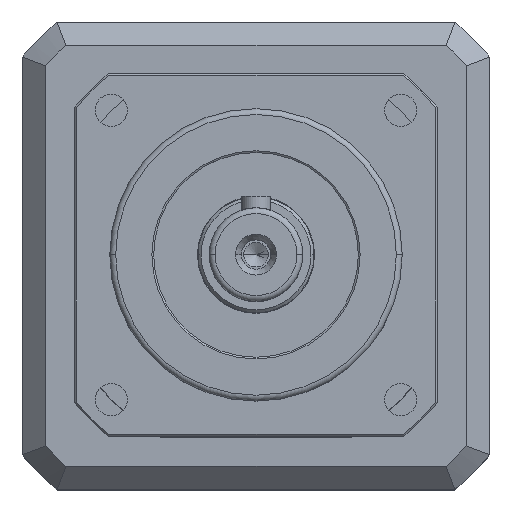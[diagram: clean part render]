
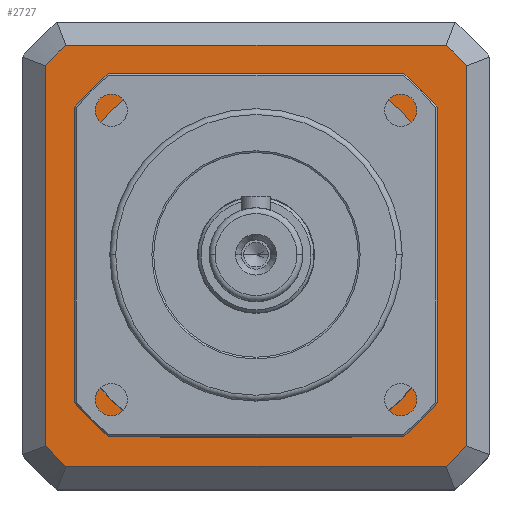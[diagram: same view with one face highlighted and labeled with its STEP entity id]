
A CAD part, top view. The second image highlights one B-rep face of the part: STEP entity #2727.
In plain terms, the highlighted planar face has unit normal (0, 0, 1).
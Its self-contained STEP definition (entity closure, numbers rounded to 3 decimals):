
#88 = LINE ( 'NONE', #4486, #12140 ) ;
#89 = LINE ( 'NONE', #4491, #12143 ) ;
#213 = LINE ( 'NONE', #17878, #3453 ) ;
#1195 = CARTESIAN_POINT ( 'NONE',  ( -36., 0., -91.8 ) ) ;
#1196 = DIRECTION ( 'NONE',  ( 0., -1., 0. ) ) ;
#1197 = CARTESIAN_POINT ( 'NONE',  ( 0., 0., -91.8 ) ) ;
#1198 = DIRECTION ( 'NONE',  ( 0., 0., 1. ) ) ;
#1199 = DIRECTION ( 'NONE',  ( 1., 0., 0. ) ) ;
#1200 = CARTESIAN_POINT ( 'NONE',  ( 0., 0., -91.8 ) ) ;
#1201 = DIRECTION ( 'NONE',  ( 0., 0., 1. ) ) ;
#1202 = DIRECTION ( 'NONE',  ( 1., 0., 0. ) ) ;
#1203 = CARTESIAN_POINT ( 'NONE',  ( 0., -36., -91.8 ) ) ;
#1204 = DIRECTION ( 'NONE',  ( 1., 0., 0. ) ) ;
#1205 = CARTESIAN_POINT ( 'NONE',  ( 0., 0., -91.8 ) ) ;
#1206 = DIRECTION ( 'NONE',  ( 0., 0., 1. ) ) ;
#1207 = DIRECTION ( 'NONE',  ( 1., 0., 0. ) ) ;
#1256 = PLANE ( 'NONE',  #12610 ) ;
#1638 = ORIENTED_EDGE ( 'NONE', *, *, #2708, .T. ) ;
#1639 = ORIENTED_EDGE ( 'NONE', *, *, #2709, .T. ) ;
#1640 = ORIENTED_EDGE ( 'NONE', *, *, #2707, .T. ) ;
#1641 = ORIENTED_EDGE ( 'NONE', *, *, #2710, .T. ) ;
#1642 = ORIENTED_EDGE ( 'NONE', *, *, #2711, .T. ) ;
#1643 = ORIENTED_EDGE ( 'NONE', *, *, #8556, .T. ) ;
#1644 = ORIENTED_EDGE ( 'NONE', *, *, #16356, .T. ) ;
#2386 = LINE ( 'NONE', #1195, #12584 ) ;
#2387 = LINE ( 'NONE', #1203, #12589 ) ;
#2421 = FACE_OUTER_BOUND ( 'NONE', #14951, .T. ) ;
#2422 = FACE_BOUND ( 'NONE', #14952, .T. ) ;
#2707 = EDGE_CURVE ( 'NONE', #18431, #18430, #2386, .T. ) ;
#2708 = EDGE_CURVE ( 'NONE', #18432, #18431, #12583, .T. ) ;
#2709 = EDGE_CURVE ( 'NONE', #18430, #18429, #12580, .T. ) ;
#2710 = EDGE_CURVE ( 'NONE', #18429, #18428, #2387, .T. ) ;
#2711 = EDGE_CURVE ( 'NONE', #18428, #18427, #12577, .T. ) ;
#2727 = ADVANCED_FACE ( 'NONE', ( #2421, #2422 ), #1256, .T. ) ;
#3453 = VECTOR ( 'NONE', #17879, 1000. ) ;
#4483 = CARTESIAN_POINT ( 'NONE',  ( 0., 0., -91.8 ) ) ;
#4484 = DIRECTION ( 'NONE',  ( 0., 0., 1. ) ) ;
#4485 = DIRECTION ( 'NONE',  ( 1., 0., 0. ) ) ;
#4486 = CARTESIAN_POINT ( 'NONE',  ( 31., 16.248, -91.8 ) ) ;
#4487 = DIRECTION ( 'NONE',  ( 0., 1., 0. ) ) ;
#4488 = CARTESIAN_POINT ( 'NONE',  ( 0., 0., -91.8 ) ) ;
#4489 = DIRECTION ( 'NONE',  ( 0., 0., 1. ) ) ;
#4490 = DIRECTION ( 'NONE',  ( 1., 0., 0. ) ) ;
#4491 = CARTESIAN_POINT ( 'NONE',  ( -16.248, -31., -91.8 ) ) ;
#4492 = DIRECTION ( 'NONE',  ( 1., 0., 0. ) ) ;
#4493 = CARTESIAN_POINT ( 'NONE',  ( 0., 0., -91.8 ) ) ;
#4494 = DIRECTION ( 'NONE',  ( 0., 0., 1. ) ) ;
#4495 = DIRECTION ( 'NONE',  ( 1., 0., 0. ) ) ;
#7411 = ORIENTED_EDGE ( 'NONE', *, *, #16358, .T. ) ;
#7412 = ORIENTED_EDGE ( 'NONE', *, *, #16359, .F. ) ;
#7413 = ORIENTED_EDGE ( 'NONE', *, *, #16360, .F. ) ;
#7414 = ORIENTED_EDGE ( 'NONE', *, *, #16357, .F. ) ;
#7415 = ORIENTED_EDGE ( 'NONE', *, *, #8115, .F. ) ;
#7416 = ORIENTED_EDGE ( 'NONE', *, *, #8116, .F. ) ;
#7417 = ORIENTED_EDGE ( 'NONE', *, *, #8117, .F. ) ;
#7418 = ORIENTED_EDGE ( 'NONE', *, *, #8118, .F. ) ;
#7419 = ORIENTED_EDGE ( 'NONE', *, *, #8119, .F. ) ;
#7874 = AXIS2_PLACEMENT_3D ( 'NONE', #9491, #9492, #9493 ) ;
#7875 = VECTOR ( 'NONE', #9495, 1000. ) ;
#7876 = VECTOR ( 'NONE', #9497, 1000. ) ;
#7878 = VECTOR ( 'NONE', #9499, 1000. ) ;
#8115 = EDGE_CURVE ( 'NONE', #18420, #18421, #12138, .T. ) ;
#8116 = EDGE_CURVE ( 'NONE', #18419, #18420, #88, .T. ) ;
#8117 = EDGE_CURVE ( 'NONE', #18418, #18419, #12139, .T. ) ;
#8118 = EDGE_CURVE ( 'NONE', #18417, #18418, #89, .T. ) ;
#8119 = EDGE_CURVE ( 'NONE', #18423, #18417, #12142, .T. ) ;
#8556 = EDGE_CURVE ( 'NONE', #18427, #18426, #213, .T. ) ;
#9027 = CARTESIAN_POINT ( 'NONE',  ( 0., 0., -91.8 ) ) ;
#9028 = DIRECTION ( 'NONE',  ( 0., 0., 1. ) ) ;
#9029 = DIRECTION ( 'NONE',  ( 1., 0., 0. ) ) ;
#9274 = LINE ( 'NONE', #9494, #7875 ) ;
#9275 = LINE ( 'NONE', #9496, #7876 ) ;
#9276 = LINE ( 'NONE', #9498, #7878 ) ;
#9488 = CARTESIAN_POINT ( 'NONE',  ( 0., 0., -91.8 ) ) ;
#9489 = DIRECTION ( 'NONE',  ( 0., 0., 1. ) ) ;
#9490 = DIRECTION ( 'NONE',  ( 1., 0., 0. ) ) ;
#9491 = CARTESIAN_POINT ( 'NONE',  ( 0., 0., -91.8 ) ) ;
#9492 = DIRECTION ( 'NONE',  ( 0., 0., 1. ) ) ;
#9493 = DIRECTION ( 'NONE',  ( 1., 0., 0. ) ) ;
#9494 = CARTESIAN_POINT ( 'NONE',  ( 0., 36., -91.8 ) ) ;
#9495 = DIRECTION ( 'NONE',  ( -1., 0., 0. ) ) ;
#9496 = CARTESIAN_POINT ( 'NONE',  ( -31., 16.248, -91.8 ) ) ;
#9497 = DIRECTION ( 'NONE',  ( 0., -1., 0. ) ) ;
#9498 = CARTESIAN_POINT ( 'NONE',  ( -16.248, 31., -91.8 ) ) ;
#9499 = DIRECTION ( 'NONE',  ( -1., 0., 0. ) ) ;
#9932 = CARTESIAN_POINT ( 'NONE',  ( -16.248, -31., -91.8 ) ) ;
#9933 = CARTESIAN_POINT ( 'NONE',  ( 16.248, -31., -91.8 ) ) ;
#9934 = CARTESIAN_POINT ( 'NONE',  ( 31., -16.248, -91.8 ) ) ;
#9935 = CARTESIAN_POINT ( 'NONE',  ( 31., 16.248, -91.8 ) ) ;
#9936 = CARTESIAN_POINT ( 'NONE',  ( 16.248, 31., -91.8 ) ) ;
#9937 = CARTESIAN_POINT ( 'NONE',  ( -16.248, 31., -91.8 ) ) ;
#9938 = CARTESIAN_POINT ( 'NONE',  ( -31., -16.248, -91.8 ) ) ;
#9939 = CARTESIAN_POINT ( 'NONE',  ( -31., 16.248, -91.8 ) ) ;
#9940 = CARTESIAN_POINT ( 'NONE',  ( 32.5, 36., -91.8 ) ) ;
#9941 = CARTESIAN_POINT ( 'NONE',  ( 36., 32.5, -91.8 ) ) ;
#9942 = CARTESIAN_POINT ( 'NONE',  ( 36., -32.5, -91.8 ) ) ;
#9943 = CARTESIAN_POINT ( 'NONE',  ( 32.5, -36., -91.8 ) ) ;
#9944 = CARTESIAN_POINT ( 'NONE',  ( -32.5, -36., -91.8 ) ) ;
#9945 = CARTESIAN_POINT ( 'NONE',  ( -36., -32.5, -91.8 ) ) ;
#9946 = CARTESIAN_POINT ( 'NONE',  ( -36., 32.5, -91.8 ) ) ;
#9947 = CARTESIAN_POINT ( 'NONE',  ( -32.5, 36., -91.8 ) ) ;
#12136 = AXIS2_PLACEMENT_3D ( 'NONE', #4483, #4484, #4485 ) ;
#12138 = CIRCLE ( 'NONE', #12136, 35. ) ;
#12139 = CIRCLE ( 'NONE', #12141, 35. ) ;
#12140 = VECTOR ( 'NONE', #4487, 1000. ) ;
#12141 = AXIS2_PLACEMENT_3D ( 'NONE', #4488, #4489, #4490 ) ;
#12142 = CIRCLE ( 'NONE', #12144, 35. ) ;
#12143 = VECTOR ( 'NONE', #4492, 1000. ) ;
#12144 = AXIS2_PLACEMENT_3D ( 'NONE', #4493, #4494, #4495 ) ;
#12577 = CIRCLE ( 'NONE', #12590, 48.5 ) ;
#12580 = CIRCLE ( 'NONE', #12587, 48.5 ) ;
#12583 = CIRCLE ( 'NONE', #12585, 48.5 ) ;
#12584 = VECTOR ( 'NONE', #1196, 1000. ) ;
#12585 = AXIS2_PLACEMENT_3D ( 'NONE', #1197, #1198, #1199 ) ;
#12587 = AXIS2_PLACEMENT_3D ( 'NONE', #1200, #1201, #1202 ) ;
#12589 = VECTOR ( 'NONE', #1204, 1000. ) ;
#12590 = AXIS2_PLACEMENT_3D ( 'NONE', #1205, #1206, #1207 ) ;
#12610 = AXIS2_PLACEMENT_3D ( 'NONE', #9027, #9028, #9029 ) ;
#14514 = CIRCLE ( 'NONE', #7874, 35. ) ;
#14517 = CIRCLE ( 'NONE', #14531, 48.5 ) ;
#14531 = AXIS2_PLACEMENT_3D ( 'NONE', #9488, #9489, #9490 ) ;
#14951 = EDGE_LOOP ( 'NONE', ( #1638, #1640, #1639, #1641, #1642, #1643, #1644, #7411 ) ) ;
#14952 = EDGE_LOOP ( 'NONE', ( #7412, #7414, #7413, #7415, #7416, #7417, #7418, #7419 ) ) ;
#16356 = EDGE_CURVE ( 'NONE', #18426, #18425, #14517, .T. ) ;
#16357 = EDGE_CURVE ( 'NONE', #18422, #18424, #14514, .T. ) ;
#16358 = EDGE_CURVE ( 'NONE', #18425, #18432, #9274, .T. ) ;
#16359 = EDGE_CURVE ( 'NONE', #18424, #18423, #9275, .T. ) ;
#16360 = EDGE_CURVE ( 'NONE', #18421, #18422, #9276, .T. ) ;
#17878 = CARTESIAN_POINT ( 'NONE',  ( 36., 0., -91.8 ) ) ;
#17879 = DIRECTION ( 'NONE',  ( 0., 1., 0. ) ) ;
#18417 = VERTEX_POINT ( 'NONE', #9932 ) ;
#18418 = VERTEX_POINT ( 'NONE', #9933 ) ;
#18419 = VERTEX_POINT ( 'NONE', #9934 ) ;
#18420 = VERTEX_POINT ( 'NONE', #9935 ) ;
#18421 = VERTEX_POINT ( 'NONE', #9936 ) ;
#18422 = VERTEX_POINT ( 'NONE', #9937 ) ;
#18423 = VERTEX_POINT ( 'NONE', #9938 ) ;
#18424 = VERTEX_POINT ( 'NONE', #9939 ) ;
#18425 = VERTEX_POINT ( 'NONE', #9940 ) ;
#18426 = VERTEX_POINT ( 'NONE', #9941 ) ;
#18427 = VERTEX_POINT ( 'NONE', #9942 ) ;
#18428 = VERTEX_POINT ( 'NONE', #9943 ) ;
#18429 = VERTEX_POINT ( 'NONE', #9944 ) ;
#18430 = VERTEX_POINT ( 'NONE', #9945 ) ;
#18431 = VERTEX_POINT ( 'NONE', #9946 ) ;
#18432 = VERTEX_POINT ( 'NONE', #9947 ) ;
